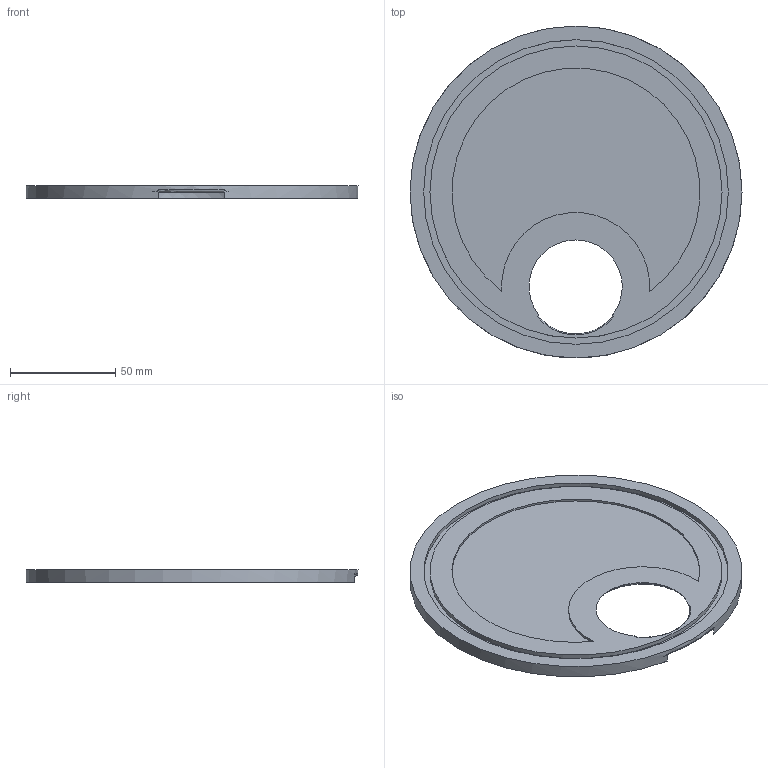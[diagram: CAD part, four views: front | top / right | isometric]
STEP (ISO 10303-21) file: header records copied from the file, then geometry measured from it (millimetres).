
FILE_DESCRIPTION(/* description */ (''),/* implementation_level */ '2;1');
FILE_NAME(/* name */ 'Waschbecken_Halter unten v2.step',/* time_stamp */ '2025-12-19T20:33:17+01:00',/* author */ (''),/* organization */ (''),/* preprocessor_version */ 'ST-DEVELOPER v20.1',/* originating_system */ 'Autodesk Translation Framework v14.21.0.0',/* authorisation */ '');
FILE_SCHEMA (('AUTOMOTIVE_DESIGN { 1 0 10303 214 3 1 1 }'));
Length unit declared in the file: millimetre
Products named in the file (1): Waschbecken_Halter unten v2
Bounding box: 158 x 158 x 6 mm (x, y, z)
Volume: 89369.9 mm3; surface area: 41921.9 mm2
Topology: 1 solids, 1 shells, 19 faces, 39 edges, 25 vertices
Faces by surface type: plane 6, cylinder 6, torus 4, bspline 2, cone 1
Full cylindrical faces by diameter (mm): 139 x1, 145 x1, 158 x1
Entity records: 655 total; most frequent: CARTESIAN_POINT 212, DIRECTION 90, ORIENTED_EDGE 78, AXIS2_PLACEMENT_3D 41, EDGE_CURVE 39, VERTEX_POINT 25, EDGE_LOOP 24, CIRCLE 23
